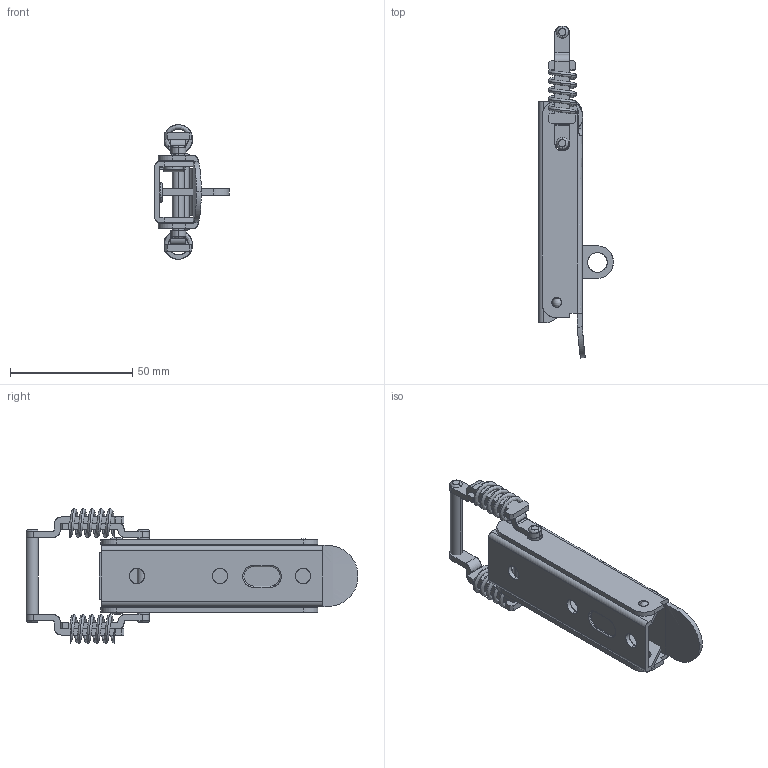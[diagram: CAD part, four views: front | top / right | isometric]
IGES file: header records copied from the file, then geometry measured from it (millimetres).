
Start section: SolidWorks IGES FILE using analytic representation for surfaces
Global section: file name: C:\Documents and Settings\lecoutey\Bureau\GP 95\GP 95.IGS; native system: SolidWorks 2004 by SolidWorks Corporation; preprocessor: Version 5.3; author: lecoutey; date: 050329.150917; units: millimetre
Bounding box: 30.5 x 135.8 x 55 mm (x, y, z)
Surface area: 29014.6 mm2 (no closed solid volume)
Topology: 0 solids, 0 shells, 317 faces, 4662 edges, 4661 vertices
Faces by surface type: bspline 188, revolution 129
